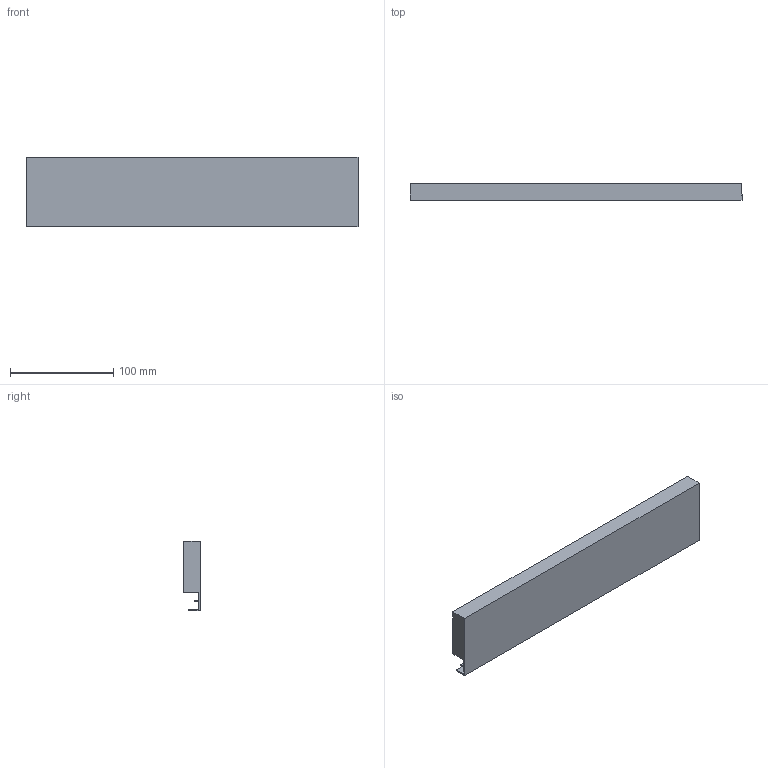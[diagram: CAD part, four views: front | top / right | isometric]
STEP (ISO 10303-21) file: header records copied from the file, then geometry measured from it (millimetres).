
FILE_DESCRIPTION (( 'STEP AP214' ), '1' );
FILE_NAME ('Innenschub-Blendenprofil_KAB450_S19.step', '2010-09-23T12:27:07', ( 'grass' ), ( '' ), 'SwSTEP 2.0', 'SolidWorks 2010', '' );
FILE_SCHEMA (( 'AUTOMOTIVE_DESIGN' ));
Length unit declared in the file: millimetre
Products named in the file (1): Innenschub-Blendenprofil_KAB450_S19
Bounding box: 321 x 15.9 x 67.6 mm (x, y, z)
Volume: 266135.3 mm3; surface area: 64673.2 mm2
Topology: 1 solids, 1 shells, 17 faces, 42 edges, 28 vertices
Faces by surface type: plane 15, cylinder 2
Entity records: 534 total; most frequent: CARTESIAN_POINT 88, ORIENTED_EDGE 84, DIRECTION 82, EDGE_CURVE 42, LINE 38, VECTOR 38, VERTEX_POINT 28, AXIS2_PLACEMENT_3D 22
